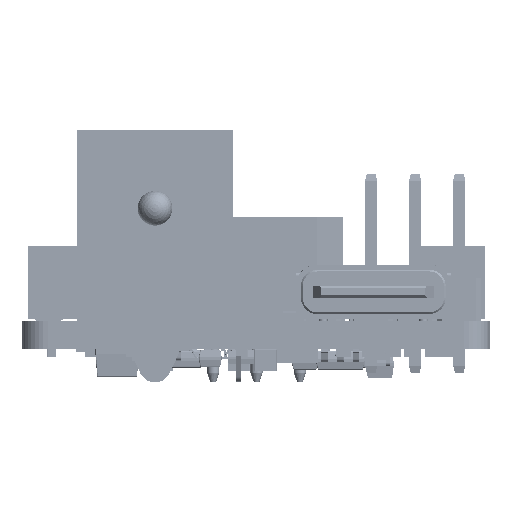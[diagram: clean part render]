
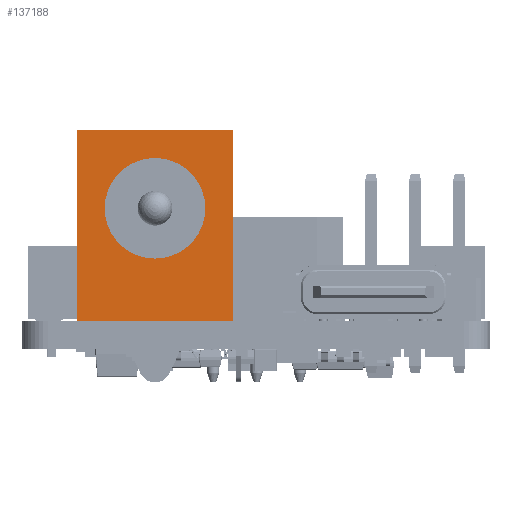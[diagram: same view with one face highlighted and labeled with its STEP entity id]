
A CAD part, front view. The second image highlights one B-rep face of the part: STEP entity #137188.
In plain terms, the highlighted planar face has unit normal (0, -1, 0) as drawn and (-1, 0, 0) by its records, which use the part's own axes.
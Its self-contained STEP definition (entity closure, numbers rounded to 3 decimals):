
#7526=FACE_BOUND('',#21670,.T.);
#8937=PLANE('',#145225);
#14075=FACE_OUTER_BOUND('',#21669,.T.);
#21669=EDGE_LOOP('',(#99016,#99017,#99018,#99019));
#21670=EDGE_LOOP('',(#99020));
#27971=CIRCLE('',#145175,2.9);
#32294=LINE('',#200396,#46205);
#32317=LINE('',#200446,#46228);
#32333=LINE('',#200485,#46244);
#32336=LINE('',#200490,#46247);
#46205=VECTOR('',#158962,1.);
#46228=VECTOR('',#158995,1.);
#46244=VECTOR('',#159027,1.);
#46247=VECTOR('',#159032,1.);
#59814=VERTEX_POINT('',#199902);
#59988=VERTEX_POINT('',#200394);
#59989=VERTEX_POINT('',#200395);
#60011=VERTEX_POINT('',#200445);
#60026=VERTEX_POINT('',#200484);
#74405=EDGE_CURVE('',#59814,#59814,#27971,.T.);
#74579=EDGE_CURVE('',#59988,#59989,#32294,.T.);
#74604=EDGE_CURVE('',#59989,#60011,#32317,.T.);
#74625=EDGE_CURVE('',#60026,#59988,#32333,.T.);
#74628=EDGE_CURVE('',#60011,#60026,#32336,.T.);
#99016=ORIENTED_EDGE('',*,*,#74625,.F.);
#99017=ORIENTED_EDGE('',*,*,#74628,.F.);
#99018=ORIENTED_EDGE('',*,*,#74604,.F.);
#99019=ORIENTED_EDGE('',*,*,#74579,.F.);
#99020=ORIENTED_EDGE('',*,*,#74405,.F.);
#137188=ADVANCED_FACE('',(#14075,#7526),#8937,.F.);
#145175=AXIS2_PLACEMENT_3D('',#199904,#158799,#158800);
#145225=AXIS2_PLACEMENT_3D('',#200494,#159038,#159039);
#158799=DIRECTION('center_axis',(-1.,0.,0.));
#158800=DIRECTION('ref_axis',(0.,0.,1.));
#158962=DIRECTION('',(0.,0.,-1.));
#158995=DIRECTION('',(0.,1.,0.));
#159027=DIRECTION('',(0.,-1.,0.));
#159032=DIRECTION('',(0.,0.,1.));
#159038=DIRECTION('center_axis',(1.,0.,0.));
#159039=DIRECTION('ref_axis',(0.,0.,-1.));
#199902=CARTESIAN_POINT('',(-10.625,2.425,3.6));
#199904=CARTESIAN_POINT('Origin',(-10.625,2.425,6.5));
#200394=CARTESIAN_POINT('',(-10.625,-2.075,11.));
#200395=CARTESIAN_POINT('',(-10.625,-2.075,0.));
#200396=CARTESIAN_POINT('',(-10.625,-2.075,0.));
#200445=CARTESIAN_POINT('',(-10.625,6.925,0.));
#200446=CARTESIAN_POINT('',(-10.625,-2.075,0.));
#200484=CARTESIAN_POINT('',(-10.625,6.925,11.));
#200485=CARTESIAN_POINT('',(-10.625,-2.075,11.));
#200490=CARTESIAN_POINT('',(-10.625,6.925,0.));
#200494=CARTESIAN_POINT('Origin',(-10.625,2.425,5.5));
